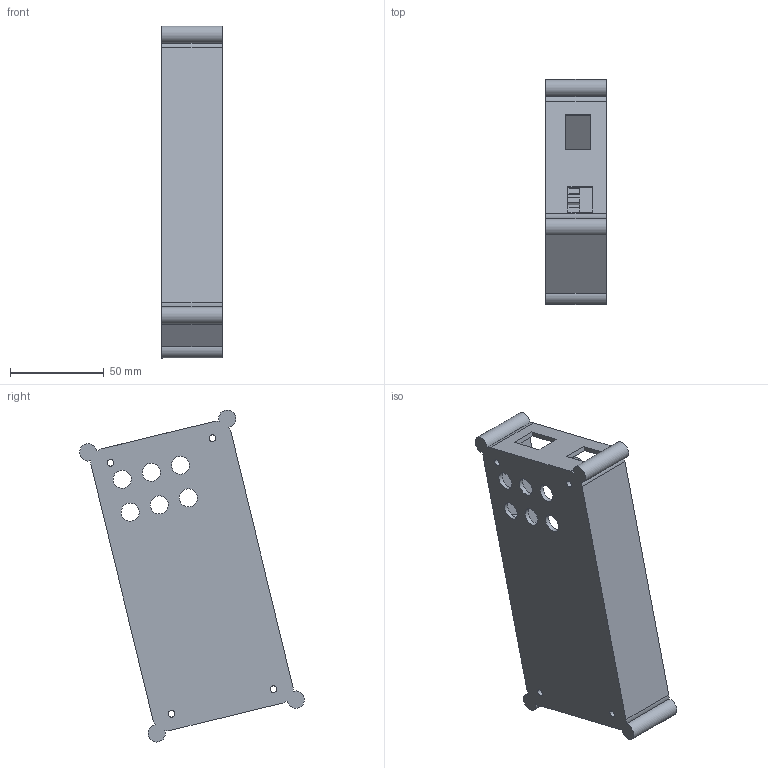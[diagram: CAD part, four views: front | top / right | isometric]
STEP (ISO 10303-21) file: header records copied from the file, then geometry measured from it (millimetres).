
FILE_DESCRIPTION(('Open CASCADE Model'),'2;1');
FILE_NAME('Open CASCADE Shape Model','2026-11-19T06:38:48',('Author'),( 'Open CASCADE'),'Open CASCADE STEP processor 8.0','Open CASCADE 8.0' ,'Unknown');
FILE_SCHEMA(('AUTOMOTIVE_DESIGN { 1 0 10303 214 1 1 1 1 }'));
Length unit declared in the file: millimetre
Products named in the file (1): Open CASCADE STEP translator 8.0 5
Bounding box: 32.4 x 120 x 177.36 mm (x, y, z)
Volume: 68443.6 mm3; surface area: 56293.5 mm2
Topology: 1 solids, 1 shells, 131 faces, 309 edges, 206 vertices
Faces by surface type: plane 83, cylinder 48
Full cylindrical faces by diameter (mm): 1.85 x3, 2.75 x10, 3.55 x4, 5.2 x3, 5.6 x6, 9.65 x6
Entity records: 7786 total; most frequent: CARTESIAN_POINT 1573, DIRECTION 1111, ORIENTED_EDGE 618, PCURVE 618, DEFINITIONAL_REPRESENTATION 618, LINE 579, VECTOR 579, EDGE_CURVE 309
